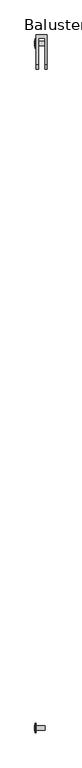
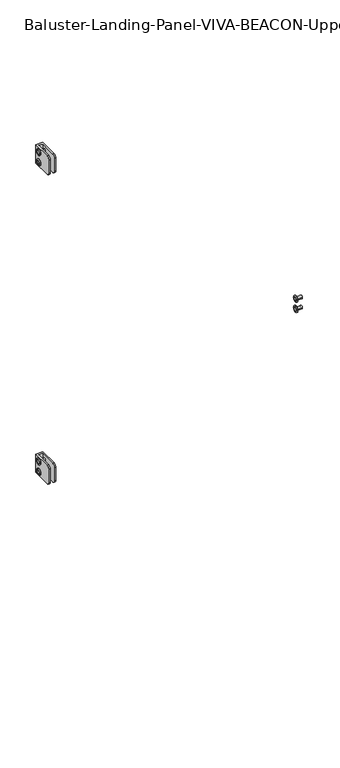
"""IFC4 building model written with IfcOpenShell, lengths in millimetres: railing geometry, Baluster-Landing-Panel-VIVA-BEACON-Upper : Standard_Glass."""

from ifc_helpers import new_model, si_unit, point, frame, origin, place, context, project, spatial, polyline, circle_curve, ellipse_curve, trimmed, outline, extrude, source, transform, mapped, element, save
from ifc_brep_helpers import plane_surface, cylinder_surface, revolved_surface, advanced_brep


def baluster_landing_panel_viva_beacon_upper_standard_glass_bbd0a9c9(model_context):
    return source(origin(), model_context, "Body", "SolidModel", [
        extrude(outline(polyline([(1009.1319632, 970.111725), (1007.084999, 966.5662791), (1002.9910707, 966.5662791), (1000.9441066, 970.111725), (1002.9910707, 973.6571709), (1007.084999, 973.6571709), (1009.1319632, 970.111725)])), frame((26.0686477, 0.0, 0.0), z_axis=(1.0, 0.0, 0.0), x_axis=(0.0, 1.0, 0.0)), (0.0, 0.0, 1.0), 1.4969696),
        advanced_brep(
        [(41.1327292, 1008.5834808, 970.111725), (41.1327292, 1001.492589, 970.111725), (28.4327292, 1001.492589, 970.111725), (28.4327292, 1008.5834808, 970.111725), (28.4327292, 997.6302458, 970.111725), (28.4327292, 1012.445824, 970.111725), (27.5656173, 1006.6941103, 970.111725), (27.5656173, 1003.3819595, 970.111725), (41.1327292, 1003.3819595, 970.111725), (41.1327292, 1006.6941103, 970.111725), (27.5978844, 1012.445824, 970.111725), (27.5978844, 997.6302458, 970.111725), (26.3166123, 998.9115178, 970.111725), (26.3166123, 1011.1645519, 970.111725), (26.3166123, 1000.7394393, 970.111725), (26.3166123, 1009.3366304, 970.111725), (27.5656173, 1000.7394393, 970.111725), (27.5656173, 1009.3366304, 970.111725)],
        [
            (0, 1, circle_curve(frame((41.1327292, 1005.0380349, 970.111725), z_axis=(-1.0, 0.0, 0.0), x_axis=(0.0, -1.0, 0.0)), 3.5454459)),
            (1, 2),
            (2, 3, circle_curve(frame((28.4327292, 1005.0380349, 970.111725), z_axis=(1.0, 0.0, 0.0), x_axis=(0.0, -1.0, 0.0)), 3.5454459)),
            (3, 0),
            (1, 0, circle_curve(frame((41.1327292, 1005.0380349, 970.111725), z_axis=(-1.0, 0.0, 0.0), x_axis=(0.0, -1.0, 0.0)), 3.5454459)),
            (3, 2, circle_curve(frame((28.4327292, 1005.0380349, 970.111725), z_axis=(1.0, 0.0, 0.0), x_axis=(0.0, -1.0, 0.0)), 3.5454459)),
            (2, 4),
            (4, 5, circle_curve(frame((28.4327292, 1005.0380349, 970.111725), z_axis=(1.0, 0.0, 0.0), x_axis=(0.0, -1.0, 0.0)), 7.4077891)),
            (5, 3),
            (5, 4, circle_curve(frame((28.4327292, 1005.0380349, 970.111725), z_axis=(1.0, 0.0, 0.0), x_axis=(0.0, -1.0, 0.0)), 7.4077891)),
            (6, 7, circle_curve(frame((27.5656173, 1005.0380349, 970.111725), z_axis=(-1.0, 0.0, 0.0), x_axis=(0.0, -1.0, 0.0)), 1.6560754)),
            (7, 8),
            (8, 9, circle_curve(frame((41.1327292, 1005.0380349, 970.111725), z_axis=(1.0, 0.0, 0.0), x_axis=(0.0, -1.0, 0.0)), 1.6560754)),
            (9, 6),
            (7, 6, circle_curve(frame((27.5656173, 1005.0380349, 970.111725), z_axis=(-1.0, 0.0, 0.0), x_axis=(0.0, -1.0, 0.0)), 1.6560754)),
            (9, 8, circle_curve(frame((41.1327292, 1005.0380349, 970.111725), z_axis=(1.0, 0.0, 0.0), x_axis=(0.0, -1.0, 0.0)), 1.6560754)),
            (10, 11, circle_curve(frame((27.5978844, 1005.0380349, 970.111725), z_axis=(-1.0, 0.0, 0.0), x_axis=(0.0, -1.0, 0.0)), 7.4077891)),
            (11, 12, circle_curve(frame((27.5978844, 998.9115178, 970.111725), z_axis=(0.0, 0.0, -1.0), x_axis=(0.0, -1.0, 0.0)), 1.281272)),
            (12, 13, circle_curve(frame((26.3166123, 1005.0380349, 970.111725), z_axis=(1.0, 0.0, 0.0), x_axis=(0.0, -1.0, 0.0)), 6.1265171)),
            (13, 10, circle_curve(frame((27.5978844, 1011.1645519, 970.111725), z_axis=(0.0, 0.0, -1.0), x_axis=(0.0, 1.0, 0.0)), 1.281272)),
            (11, 10, circle_curve(frame((27.5978844, 1005.0380349, 970.111725), z_axis=(-1.0, 0.0, 0.0), x_axis=(0.0, -1.0, 0.0)), 7.4077891)),
            (13, 12, circle_curve(frame((26.3166123, 1005.0380349, 970.111725), z_axis=(1.0, 0.0, 0.0), x_axis=(0.0, -1.0, 0.0)), 6.1265171)),
            (12, 14),
            (14, 15, circle_curve(frame((26.3166123, 1005.0380349, 970.111725), z_axis=(1.0, 0.0, 0.0), x_axis=(0.0, -1.0, 0.0)), 4.2985955)),
            (15, 13),
            (15, 14, circle_curve(frame((26.3166123, 1005.0380349, 970.111725), z_axis=(1.0, 0.0, 0.0), x_axis=(0.0, -1.0, 0.0)), 4.2985955)),
            (4, 11),
            (10, 5),
            (8, 1),
            (0, 9),
            (14, 16),
            (16, 17, circle_curve(frame((27.5656173, 1005.0380349, 970.111725), z_axis=(1.0, 0.0, 0.0), x_axis=(0.0, -1.0, 0.0)), 4.2985955)),
            (17, 15),
            (17, 16, circle_curve(frame((27.5656173, 1005.0380349, 970.111725), z_axis=(1.0, 0.0, 0.0), x_axis=(0.0, -1.0, 0.0)), 4.2985955)),
            (16, 7),
            (6, 17),
        ],
        [
            cylinder_surface(frame((31.9294623, 1005.0380349, 970.111725), z_axis=(1.0, 0.0, 0.0), x_axis=(0.0, -1.0, 0.0)), 3.5454459),
            plane_surface(frame((28.4327292, 1005.0380349, 970.111725), z_axis=(1.0, 0.0, 0.0), x_axis=(0.0, -1.0, 0.0))),
            revolved_surface(polyline([(41.1327292, 1003.3819595, 970.111725), (27.5656173, 1003.3819595, 970.111725)]), (31.9294623, 1005.0380349, 970.111725), (1.0, 0.0, 0.0)),
            revolved_surface(trimmed(ellipse_curve(frame((27.5978844, 998.9115178, 970.111725), z_axis=(0.0, 0.0, 1.0), x_axis=(0.0, -1.0, 0.0)), 1.281272, 1.281272), [point((26.3166123, 998.9115178, 970.111725))], [point((27.5978844, 997.6302458, 970.111725))], True, "CARTESIAN"), (31.9294623, 1005.0380349, 970.111725), (1.0, 0.0, 0.0)),
            plane_surface(frame((26.3166123, 1005.0380349, 970.111725), z_axis=(-1.0, 0.0, 0.0), x_axis=(0.0, -1.0, 0.0))),
            cylinder_surface(frame((31.9294623, 1005.0380349, 970.111725), z_axis=(1.0, 0.0, 0.0), x_axis=(0.0, -1.0, 0.0)), 7.4077891),
            plane_surface(frame((41.1327292, 1005.0380349, 970.111725), z_axis=(1.0, 0.0, 0.0), x_axis=(0.0, -1.0, 0.0))),
            revolved_surface(polyline([(27.5656173, 1000.7394393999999, 970.111725), (26.3166123, 1000.7394393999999, 970.111725)]), (31.9294623, 1005.0380349, 970.111725), (1.0, 0.0, 0.0)),
            plane_surface(frame((27.5656173, 1005.0380349, 970.111725), z_axis=(-1.0, 0.0, 0.0), x_axis=(0.0, -1.0, 0.0))),
        ],
        [
            (0, [[1, 2, 3, 4]]),
            (0, [[5, -4, 6, -2]]),
            (1, [[-3, 7, 8, 9]]),
            (1, [[-6, -9, 10, -7]]),
            (2, [[11, 12, 13, 14]]),
            (2, [[15, -14, 16, -12]]),
            (3, [[17, 18, 19, 20]]),
            (3, [[21, -20, 22, -18]]),
            (4, [[-19, 23, 24, 25]]),
            (4, [[-22, -25, 26, -23]]),
            (5, [[-8, 27, -17, 28]]),
            (5, [[-10, -28, -21, -27]]),
            (6, [[-13, 29, -1, 30]]),
            (6, [[-16, -30, -5, -29]]),
            (7, [[-24, 31, 32, 33]]),
            (7, [[-26, -33, 34, -31]]),
            (8, [[-32, 35, -11, 36]]),
            (8, [[-34, -36, -15, -35]]),
        ],
    ),
        advanced_brep(
        [(41.1327292, 1008.5834808, 945.505475), (41.1327292, 1001.492589, 945.505475), (28.4327292, 1001.492589, 945.505475), (28.4327292, 1008.5834808, 945.505475), (28.4327292, 997.6302458, 945.505475), (28.4327292, 1012.445824, 945.505475), (27.5656173, 1006.6941103, 945.505475), (27.5656173, 1003.3819595, 945.505475), (41.1327292, 1003.3819595, 945.505475), (41.1327292, 1006.6941103, 945.505475), (27.5978844, 1012.445824, 945.505475), (27.5978844, 997.6302458, 945.505475), (26.3166123, 998.9115178, 945.505475), (26.3166123, 1011.1645519, 945.505475), (26.3166123, 1000.7394393, 945.505475), (26.3166123, 1009.3366304, 945.505475), (27.5656173, 1000.7394393, 945.505475), (27.5656173, 1009.3366304, 945.505475)],
        [
            (0, 1, circle_curve(frame((41.1327292, 1005.0380349, 945.505475), z_axis=(-1.0, 0.0, 0.0), x_axis=(0.0, -1.0, 0.0)), 3.5454459)),
            (1, 2),
            (2, 3, circle_curve(frame((28.4327292, 1005.0380349, 945.505475), z_axis=(1.0, 0.0, 0.0), x_axis=(0.0, -1.0, 0.0)), 3.5454459)),
            (3, 0),
            (1, 0, circle_curve(frame((41.1327292, 1005.0380349, 945.505475), z_axis=(-1.0, 0.0, 0.0), x_axis=(0.0, -1.0, 0.0)), 3.5454459)),
            (3, 2, circle_curve(frame((28.4327292, 1005.0380349, 945.505475), z_axis=(1.0, 0.0, 0.0), x_axis=(0.0, -1.0, 0.0)), 3.5454459)),
            (2, 4),
            (4, 5, circle_curve(frame((28.4327292, 1005.0380349, 945.505475), z_axis=(1.0, 0.0, 0.0), x_axis=(0.0, -1.0, 0.0)), 7.4077891)),
            (5, 3),
            (5, 4, circle_curve(frame((28.4327292, 1005.0380349, 945.505475), z_axis=(1.0, 0.0, 0.0), x_axis=(0.0, -1.0, 0.0)), 7.4077891)),
            (6, 7, circle_curve(frame((27.5656173, 1005.0380349, 945.505475), z_axis=(-1.0, 0.0, 0.0), x_axis=(0.0, -1.0, 0.0)), 1.6560754)),
            (7, 8),
            (8, 9, circle_curve(frame((41.1327292, 1005.0380349, 945.505475), z_axis=(1.0, 0.0, 0.0), x_axis=(0.0, -1.0, 0.0)), 1.6560754)),
            (9, 6),
            (7, 6, circle_curve(frame((27.5656173, 1005.0380349, 945.505475), z_axis=(-1.0, 0.0, 0.0), x_axis=(0.0, -1.0, 0.0)), 1.6560754)),
            (9, 8, circle_curve(frame((41.1327292, 1005.0380349, 945.505475), z_axis=(1.0, 0.0, 0.0), x_axis=(0.0, -1.0, 0.0)), 1.6560754)),
            (10, 11, circle_curve(frame((27.5978844, 1005.0380349, 945.505475), z_axis=(-1.0, 0.0, 0.0), x_axis=(0.0, -1.0, 0.0)), 7.4077891)),
            (11, 12, circle_curve(frame((27.5978844, 998.9115178, 945.505475), z_axis=(0.0, 0.0, -1.0), x_axis=(0.0, -1.0, 0.0)), 1.281272)),
            (12, 13, circle_curve(frame((26.3166123, 1005.0380349, 945.505475), z_axis=(1.0, 0.0, 0.0), x_axis=(0.0, -1.0, 0.0)), 6.1265171)),
            (13, 10, circle_curve(frame((27.5978844, 1011.1645519, 945.505475), z_axis=(0.0, 0.0, -1.0), x_axis=(0.0, 1.0, 0.0)), 1.281272)),
            (11, 10, circle_curve(frame((27.5978844, 1005.0380349, 945.505475), z_axis=(-1.0, 0.0, 0.0), x_axis=(0.0, -1.0, 0.0)), 7.4077891)),
            (13, 12, circle_curve(frame((26.3166123, 1005.0380349, 945.505475), z_axis=(1.0, 0.0, 0.0), x_axis=(0.0, -1.0, 0.0)), 6.1265171)),
            (12, 14),
            (14, 15, circle_curve(frame((26.3166123, 1005.0380349, 945.505475), z_axis=(1.0, 0.0, 0.0), x_axis=(0.0, -1.0, 0.0)), 4.2985955)),
            (15, 13),
            (15, 14, circle_curve(frame((26.3166123, 1005.0380349, 945.505475), z_axis=(1.0, 0.0, 0.0), x_axis=(0.0, -1.0, 0.0)), 4.2985955)),
            (8, 1),
            (0, 9),
            (4, 11),
            (10, 5),
            (14, 16),
            (16, 17, circle_curve(frame((27.5656173, 1005.0380349, 945.505475), z_axis=(1.0, 0.0, 0.0), x_axis=(0.0, -1.0, 0.0)), 4.2985955)),
            (17, 15),
            (17, 16, circle_curve(frame((27.5656173, 1005.0380349, 945.505475), z_axis=(1.0, 0.0, 0.0), x_axis=(0.0, -1.0, 0.0)), 4.2985955)),
            (16, 7),
            (6, 17),
        ],
        [
            cylinder_surface(frame((31.9294623, 1005.0380349, 945.505475), z_axis=(1.0, 0.0, 0.0), x_axis=(0.0, -1.0, 0.0)), 3.5454459),
            plane_surface(frame((28.4327292, 1005.0380349, 945.505475), z_axis=(1.0, 0.0, 0.0), x_axis=(0.0, -1.0, 0.0))),
            revolved_surface(polyline([(41.1327292, 1003.3819595, 945.505475), (27.5656173, 1003.3819595, 945.505475)]), (31.9294623, 1005.0380349, 945.505475), (1.0, 0.0, 0.0)),
            revolved_surface(trimmed(ellipse_curve(frame((27.5978844, 998.9115178, 945.505475), z_axis=(0.0, 0.0, 1.0), x_axis=(0.0, -1.0, 0.0)), 1.281272, 1.281272), [point((26.3166123, 998.9115178, 945.505475))], [point((27.5978844, 997.6302458, 945.505475))], True, "CARTESIAN"), (31.9294623, 1005.0380349, 945.505475), (1.0, 0.0, 0.0)),
            plane_surface(frame((26.3166123, 1005.0380349, 945.505475), z_axis=(-1.0, 0.0, 0.0), x_axis=(0.0, -1.0, 0.0))),
            plane_surface(frame((41.1327292, 1005.0380349, 945.505475), z_axis=(1.0, 0.0, 0.0), x_axis=(0.0, -1.0, 0.0))),
            cylinder_surface(frame((31.9294623, 1005.0380349, 945.505475), z_axis=(1.0, 0.0, 0.0), x_axis=(0.0, -1.0, 0.0)), 7.4077891),
            revolved_surface(polyline([(27.5656173, 1000.7394393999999, 945.505475), (26.3166123, 1000.7394393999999, 945.505475)]), (31.9294623, 1005.0380349, 945.505475), (1.0, 0.0, 0.0)),
            plane_surface(frame((27.5656173, 1005.0380349, 945.505475), z_axis=(-1.0, 0.0, 0.0), x_axis=(0.0, -1.0, 0.0))),
        ],
        [
            (0, [[1, 2, 3, 4]]),
            (0, [[5, -4, 6, -2]]),
            (1, [[-3, 7, 8, 9]]),
            (1, [[-6, -9, 10, -7]]),
            (2, [[11, 12, 13, 14]]),
            (2, [[15, -14, 16, -12]]),
            (3, [[17, 18, 19, 20]]),
            (3, [[21, -20, 22, -18]]),
            (4, [[-19, 23, 24, 25]]),
            (4, [[-22, -25, 26, -23]]),
            (5, [[-13, 27, -1, 28]]),
            (5, [[-16, -28, -5, -27]]),
            (6, [[-8, 29, -17, 30]]),
            (6, [[-10, -30, -21, -29]]),
            (7, [[-24, 31, 32, 33]]),
            (7, [[-26, -33, 34, -31]]),
            (8, [[-32, 35, -11, 36]]),
            (8, [[-34, -36, -15, -35]]),
        ],
    ),
        extrude(outline(polyline([(1009.1319632, 945.505475), (1007.084999, 941.9600291), (1002.9910707, 941.9600291), (1000.9441066, 945.505475), (1002.9910707, 949.0509209), (1007.084999, 949.0509209), (1009.1319632, 945.505475)])), frame((26.0686477, 0.0, 0.0), z_axis=(1.0, 0.0, 0.0), x_axis=(0.0, 1.0, 0.0)), (0.0, 0.0, 1.0), 1.4969696),
        advanced_brep(
        [(28.4327292, 1017.6713797, 980.0336), (28.4327292, 1017.6713797, 935.5836), (28.4327292, 973.2213797, 935.5836), (28.4327292, 966.8713797, 941.9336), (28.4327292, 966.8713797, 973.6836), (28.4327292, 973.2213797, 980.0336), (44.3077292, 1017.6713797, 980.0336), (44.3077292, 973.2213797, 980.0336), (44.3077292, 966.8713797, 973.6836), (44.3077292, 966.8713797, 941.9336), (44.3077292, 973.2213797, 935.5836), (44.3077292, 1017.6713797, 935.5836), (41.1327292, 973.2213797, 935.5836), (41.1327292, 1012.9532993, 935.5836), (31.6077292, 1012.9532993, 935.5836), (31.6077292, 973.2213797, 935.5836), (41.1327292, 1012.9532993, 980.0336), (31.6077292, 1012.9532993, 980.0336), (31.6077292, 973.2213797, 980.0336), (31.6077292, 966.8713797, 973.6836), (31.6077292, 966.8713797, 941.9336), (41.1327292, 966.8713797, 941.9336), (41.1327292, 966.8713797, 973.6836), (41.1327292, 973.2213797, 980.0336)],
        [
            (0, 1),
            (1, 2),
            (2, 3, circle_curve(frame((28.4327292, 973.2213797, 941.9336), z_axis=(-1.0, 0.0, 0.0), x_axis=(0.0, -1.0, 0.0)), 6.35)),
            (3, 4),
            (4, 5, circle_curve(frame((28.4327292, 973.2213797, 973.6836), z_axis=(-1.0, 0.0, 0.0), x_axis=(0.0, -1.0, 0.0)), 6.35)),
            (5, 0),
            (6, 7),
            (7, 8, circle_curve(frame((44.3077292, 973.2213797, 973.6836), z_axis=(1.0, 0.0, 0.0), x_axis=(0.0, -1.0, 0.0)), 6.35)),
            (8, 9),
            (9, 10, circle_curve(frame((44.3077292, 973.2213797, 941.9336), z_axis=(1.0, 0.0, 0.0), x_axis=(0.0, -1.0, 0.0)), 6.35)),
            (10, 11),
            (11, 6),
            (0, 6),
            (11, 1),
            (10, 12),
            (12, 13),
            (13, 14),
            (14, 15),
            (15, 2),
            (13, 16),
            (16, 17),
            (17, 14),
            (17, 18),
            (18, 19, circle_curve(frame((31.6077292, 973.2213797, 973.6836), z_axis=(1.0, 0.0, 0.0), x_axis=(0.0, -1.0, 0.0)), 6.35)),
            (19, 20),
            (20, 15, circle_curve(frame((31.6077292, 973.2213797, 941.9336), z_axis=(1.0, 0.0, 0.0), x_axis=(0.0, -1.0, 0.0)), 6.35)),
            (12, 21, circle_curve(frame((41.1327292, 973.2213797, 941.9336), z_axis=(-1.0, 0.0, 0.0), x_axis=(0.0, -1.0, 0.0)), 6.35)),
            (21, 22),
            (22, 23, circle_curve(frame((41.1327292, 973.2213797, 973.6836), z_axis=(-1.0, 0.0, 0.0), x_axis=(0.0, -1.0, 0.0)), 6.35)),
            (23, 16),
            (20, 3),
            (9, 21),
            (19, 4),
            (8, 22),
            (18, 5),
            (7, 23),
        ],
        [
            plane_surface(frame((28.4327292, 1017.6713797, 935.5836), z_axis=(-1.0, 0.0, 0.0), x_axis=(0.0, 0.0, -1.0))),
            plane_surface(frame((44.3077292, 1017.6713797, 935.5836), z_axis=(1.0, 0.0, 0.0), x_axis=(0.0, 0.0, 1.0))),
            plane_surface(frame((28.4327292, 1017.6713797, 980.0336), z_axis=(0.0, 1.0, 0.0), x_axis=(1.0, 0.0, 0.0))),
            plane_surface(frame((28.4327292, 1017.6713797, 935.5836), z_axis=(0.0, 0.0, -1.0), x_axis=(1.0, 0.0, 0.0))),
            plane_surface(frame((41.1327292, 1012.9532993, 992.7336), z_axis=(0.0, -1.0, 0.0), x_axis=(0.0, 0.0, -1.0))),
            plane_surface(frame((31.6077292, 1012.9532993, 992.7336), z_axis=(1.0, 0.0, 0.0), x_axis=(0.0, 0.0, -1.0))),
            plane_surface(frame((41.1327292, 954.1713797, 992.7336), z_axis=(-1.0, 0.0, 0.0), x_axis=(0.0, 0.0, -1.0))),
            cylinder_surface(frame((44.3077292, 973.2213797, 941.9336), z_axis=(-1.0, 0.0, 0.0), x_axis=(0.0, -1.0, 0.0)), 6.35),
            plane_surface(frame((28.4327292, 966.8713797, 941.9336), z_axis=(0.0, -1.0, 0.0), x_axis=(1.0, 0.0, 0.0))),
            cylinder_surface(frame((44.3077292, 973.2213797, 973.6836), z_axis=(-1.0, 0.0, 0.0), x_axis=(0.0, -1.0, 0.0)), 6.35),
            plane_surface(frame((28.4327292, 973.2213797, 980.0336), z_axis=(0.0, 0.0, 1.0), x_axis=(1.0, 0.0, 0.0))),
        ],
        [
            (0, [[1, 2, 3, 4, 5, 6]]),
            (1, [[7, 8, 9, 10, 11, 12]]),
            (2, [[-1, 13, -12, 14]]),
            (3, [[-2, -14, -11, 15, 16, 17, 18, 19]]),
            (4, [[20, 21, 22, -17]]),
            (5, [[-22, 23, 24, 25, 26, -18]]),
            (6, [[-20, -16, 27, 28, 29, 30]]),
            (7, [[-3, -19, -26, 31]]),
            (7, [[-10, 32, -27, -15]]),
            (8, [[-4, -31, -25, 33]]),
            (8, [[-9, 34, -28, -32]]),
            (9, [[-5, -33, -24, 35]]),
            (9, [[-8, 36, -29, -34]]),
            (10, [[-6, -35, -23, -21, -30, -36, -7, -13]]),
        ],
    ),
        extrude(outline(polyline([(1009.1319632, 220.73255), (1007.084999, 217.1871041), (1002.9910707, 217.1871041), (1000.9441066, 220.73255), (1002.9910707, 224.2779959), (1007.084999, 224.2779959), (1009.1319632, 220.73255)])), frame((26.0686477, 0.0, 0.0), z_axis=(1.0, 0.0, 0.0), x_axis=(0.0, 1.0, 0.0)), (0.0, 0.0, 1.0), 1.4969696),
        advanced_brep(
        [(41.1327292, 1008.5834808, 220.73255), (41.1327292, 1001.492589, 220.73255), (28.4327292, 1001.492589, 220.73255), (28.4327292, 1008.5834808, 220.73255), (28.4327292, 997.6302458, 220.73255), (28.4327292, 1012.445824, 220.73255), (27.5656173, 1006.6941103, 220.73255), (27.5656173, 1003.3819595, 220.73255), (41.1327292, 1003.3819595, 220.73255), (41.1327292, 1006.6941103, 220.73255), (27.5978844, 1012.445824, 220.73255), (27.5978844, 997.6302458, 220.73255), (26.3166123, 998.9115178, 220.73255), (26.3166123, 1011.1645519, 220.73255), (26.3166123, 1000.7394393, 220.73255), (26.3166123, 1009.3366304, 220.73255), (27.5656173, 1000.7394393, 220.73255), (27.5656173, 1009.3366304, 220.73255)],
        [
            (0, 1, circle_curve(frame((41.1327292, 1005.0380349, 220.73255), z_axis=(-1.0, 0.0, 0.0), x_axis=(0.0, -1.0, 0.0)), 3.5454459)),
            (1, 2),
            (2, 3, circle_curve(frame((28.4327292, 1005.0380349, 220.73255), z_axis=(1.0, 0.0, 0.0), x_axis=(0.0, -1.0, 0.0)), 3.5454459)),
            (3, 0),
            (1, 0, circle_curve(frame((41.1327292, 1005.0380349, 220.73255), z_axis=(-1.0, 0.0, 0.0), x_axis=(0.0, -1.0, 0.0)), 3.5454459)),
            (3, 2, circle_curve(frame((28.4327292, 1005.0380349, 220.73255), z_axis=(1.0, 0.0, 0.0), x_axis=(0.0, -1.0, 0.0)), 3.5454459)),
            (2, 4),
            (4, 5, circle_curve(frame((28.4327292, 1005.0380349, 220.73255), z_axis=(1.0, 0.0, 0.0), x_axis=(0.0, -1.0, 0.0)), 7.4077891)),
            (5, 3),
            (5, 4, circle_curve(frame((28.4327292, 1005.0380349, 220.73255), z_axis=(1.0, 0.0, 0.0), x_axis=(0.0, -1.0, 0.0)), 7.4077891)),
            (6, 7, circle_curve(frame((27.5656173, 1005.0380349, 220.73255), z_axis=(-1.0, 0.0, 0.0), x_axis=(0.0, -1.0, 0.0)), 1.6560754)),
            (7, 8),
            (8, 9, circle_curve(frame((41.1327292, 1005.0380349, 220.73255), z_axis=(1.0, 0.0, 0.0), x_axis=(0.0, -1.0, 0.0)), 1.6560754)),
            (9, 6),
            (7, 6, circle_curve(frame((27.5656173, 1005.0380349, 220.73255), z_axis=(-1.0, 0.0, 0.0), x_axis=(0.0, -1.0, 0.0)), 1.6560754)),
            (9, 8, circle_curve(frame((41.1327292, 1005.0380349, 220.73255), z_axis=(1.0, 0.0, 0.0), x_axis=(0.0, -1.0, 0.0)), 1.6560754)),
            (10, 11, circle_curve(frame((27.5978844, 1005.0380349, 220.73255), z_axis=(-1.0, 0.0, 0.0), x_axis=(0.0, -1.0, 0.0)), 7.4077891)),
            (11, 12, circle_curve(frame((27.5978844, 998.9115178, 220.73255), z_axis=(0.0, 0.0, -1.0), x_axis=(0.0, -1.0, 0.0)), 1.281272)),
            (12, 13, circle_curve(frame((26.3166123, 1005.0380349, 220.73255), z_axis=(1.0, 0.0, 0.0), x_axis=(0.0, -1.0, 0.0)), 6.1265171)),
            (13, 10, circle_curve(frame((27.5978844, 1011.1645519, 220.73255), z_axis=(0.0, 0.0, -1.0), x_axis=(0.0, 1.0, 0.0)), 1.281272)),
            (11, 10, circle_curve(frame((27.5978844, 1005.0380349, 220.73255), z_axis=(-1.0, 0.0, 0.0), x_axis=(0.0, -1.0, 0.0)), 7.4077891)),
            (13, 12, circle_curve(frame((26.3166123, 1005.0380349, 220.73255), z_axis=(1.0, 0.0, 0.0), x_axis=(0.0, -1.0, 0.0)), 6.1265171)),
            (12, 14),
            (14, 15, circle_curve(frame((26.3166123, 1005.0380349, 220.73255), z_axis=(1.0, 0.0, 0.0), x_axis=(0.0, -1.0, 0.0)), 4.2985955)),
            (15, 13),
            (15, 14, circle_curve(frame((26.3166123, 1005.0380349, 220.73255), z_axis=(1.0, 0.0, 0.0), x_axis=(0.0, -1.0, 0.0)), 4.2985955)),
            (4, 11),
            (10, 5),
            (8, 1),
            (0, 9),
            (14, 16),
            (16, 17, circle_curve(frame((27.5656173, 1005.0380349, 220.73255), z_axis=(1.0, 0.0, 0.0), x_axis=(0.0, -1.0, 0.0)), 4.2985955)),
            (17, 15),
            (17, 16, circle_curve(frame((27.5656173, 1005.0380349, 220.73255), z_axis=(1.0, 0.0, 0.0), x_axis=(0.0, -1.0, 0.0)), 4.2985955)),
            (16, 7),
            (6, 17),
        ],
        [
            cylinder_surface(frame((31.9294623, 1005.0380349, 220.73255), z_axis=(1.0, 0.0, 0.0), x_axis=(0.0, -1.0, 0.0)), 3.5454459),
            plane_surface(frame((28.4327292, 1005.0380349, 220.73255), z_axis=(1.0, 0.0, 0.0), x_axis=(0.0, -1.0, 0.0))),
            revolved_surface(polyline([(41.1327292, 1003.3819595, 220.73255), (27.5656173, 1003.3819595, 220.73255)]), (31.9294623, 1005.0380349, 220.73255), (1.0, 0.0, 0.0)),
            revolved_surface(trimmed(ellipse_curve(frame((27.5978844, 998.9115178, 220.73255), z_axis=(0.0, 0.0, 1.0), x_axis=(0.0, -1.0, 0.0)), 1.281272, 1.281272), [point((26.3166123, 998.9115178, 220.73255))], [point((27.5978844, 997.6302458, 220.73255))], True, "CARTESIAN"), (31.9294623, 1005.0380349, 220.73255), (1.0, 0.0, 0.0)),
            plane_surface(frame((26.3166123, 1005.0380349, 220.73255), z_axis=(-1.0, 0.0, 0.0), x_axis=(0.0, -1.0, 0.0))),
            cylinder_surface(frame((31.9294623, 1005.0380349, 220.73255), z_axis=(1.0, 0.0, 0.0), x_axis=(0.0, -1.0, 0.0)), 7.4077891),
            plane_surface(frame((41.1327292, 1005.0380349, 220.73255), z_axis=(1.0, 0.0, 0.0), x_axis=(0.0, -1.0, 0.0))),
            revolved_surface(polyline([(27.5656173, 1000.7394393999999, 220.73255), (26.3166123, 1000.7394393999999, 220.73255)]), (31.9294623, 1005.0380349, 220.73255), (1.0, 0.0, 0.0)),
            plane_surface(frame((27.5656173, 1005.0380349, 220.73255), z_axis=(-1.0, 0.0, 0.0), x_axis=(0.0, -1.0, 0.0))),
        ],
        [
            (0, [[1, 2, 3, 4]]),
            (0, [[5, -4, 6, -2]]),
            (1, [[-3, 7, 8, 9]]),
            (1, [[-6, -9, 10, -7]]),
            (2, [[11, 12, 13, 14]]),
            (2, [[15, -14, 16, -12]]),
            (3, [[17, 18, 19, 20]]),
            (3, [[21, -20, 22, -18]]),
            (4, [[-19, 23, 24, 25]]),
            (4, [[-22, -25, 26, -23]]),
            (5, [[-8, 27, -17, 28]]),
            (5, [[-10, -28, -21, -27]]),
            (6, [[-13, 29, -1, 30]]),
            (6, [[-16, -30, -5, -29]]),
            (7, [[-24, 31, 32, 33]]),
            (7, [[-26, -33, 34, -31]]),
            (8, [[-32, 35, -11, 36]]),
            (8, [[-34, -36, -15, -35]]),
        ],
    ),
        advanced_brep(
        [(41.1327292, 1008.5834808, 196.1263), (41.1327292, 1001.492589, 196.1263), (28.4327292, 1001.492589, 196.1263), (28.4327292, 1008.5834808, 196.1263), (28.4327292, 997.6302458, 196.1263), (28.4327292, 1012.445824, 196.1263), (27.5656173, 1006.6941103, 196.1263), (27.5656173, 1003.3819595, 196.1263), (41.1327292, 1003.3819595, 196.1263), (41.1327292, 1006.6941103, 196.1263), (27.5978844, 1012.445824, 196.1263), (27.5978844, 997.6302458, 196.1263), (26.3166123, 998.9115178, 196.1263), (26.3166123, 1011.1645519, 196.1263), (26.3166123, 1000.7394393, 196.1263), (26.3166123, 1009.3366304, 196.1263), (27.5656173, 1000.7394393, 196.1263), (27.5656173, 1009.3366304, 196.1263)],
        [
            (0, 1, circle_curve(frame((41.1327292, 1005.0380349, 196.1263), z_axis=(-1.0, 0.0, 0.0), x_axis=(0.0, -1.0, 0.0)), 3.5454459)),
            (1, 2),
            (2, 3, circle_curve(frame((28.4327292, 1005.0380349, 196.1263), z_axis=(1.0, 0.0, 0.0), x_axis=(0.0, -1.0, 0.0)), 3.5454459)),
            (3, 0),
            (1, 0, circle_curve(frame((41.1327292, 1005.0380349, 196.1263), z_axis=(-1.0, 0.0, 0.0), x_axis=(0.0, -1.0, 0.0)), 3.5454459)),
            (3, 2, circle_curve(frame((28.4327292, 1005.0380349, 196.1263), z_axis=(1.0, 0.0, 0.0), x_axis=(0.0, -1.0, 0.0)), 3.5454459)),
            (2, 4),
            (4, 5, circle_curve(frame((28.4327292, 1005.0380349, 196.1263), z_axis=(1.0, 0.0, 0.0), x_axis=(0.0, -1.0, 0.0)), 7.4077891)),
            (5, 3),
            (5, 4, circle_curve(frame((28.4327292, 1005.0380349, 196.1263), z_axis=(1.0, 0.0, 0.0), x_axis=(0.0, -1.0, 0.0)), 7.4077891)),
            (6, 7, circle_curve(frame((27.5656173, 1005.0380349, 196.1263), z_axis=(-1.0, 0.0, 0.0), x_axis=(0.0, -1.0, 0.0)), 1.6560754)),
            (7, 8),
            (8, 9, circle_curve(frame((41.1327292, 1005.0380349, 196.1263), z_axis=(1.0, 0.0, 0.0), x_axis=(0.0, -1.0, 0.0)), 1.6560754)),
            (9, 6),
            (7, 6, circle_curve(frame((27.5656173, 1005.0380349, 196.1263), z_axis=(-1.0, 0.0, 0.0), x_axis=(0.0, -1.0, 0.0)), 1.6560754)),
            (9, 8, circle_curve(frame((41.1327292, 1005.0380349, 196.1263), z_axis=(1.0, 0.0, 0.0), x_axis=(0.0, -1.0, 0.0)), 1.6560754)),
            (10, 11, circle_curve(frame((27.5978844, 1005.0380349, 196.1263), z_axis=(-1.0, 0.0, 0.0), x_axis=(0.0, -1.0, 0.0)), 7.4077891)),
            (11, 12, circle_curve(frame((27.5978844, 998.9115178, 196.1263), z_axis=(0.0, 0.0, -1.0), x_axis=(0.0, -1.0, 0.0)), 1.281272)),
            (12, 13, circle_curve(frame((26.3166123, 1005.0380349, 196.1263), z_axis=(1.0, 0.0, 0.0), x_axis=(0.0, -1.0, 0.0)), 6.1265171)),
            (13, 10, circle_curve(frame((27.5978844, 1011.1645519, 196.1263), z_axis=(0.0, 0.0, -1.0), x_axis=(0.0, 1.0, 0.0)), 1.281272)),
            (11, 10, circle_curve(frame((27.5978844, 1005.0380349, 196.1263), z_axis=(-1.0, 0.0, 0.0), x_axis=(0.0, -1.0, 0.0)), 7.4077891)),
            (13, 12, circle_curve(frame((26.3166123, 1005.0380349, 196.1263), z_axis=(1.0, 0.0, 0.0), x_axis=(0.0, -1.0, 0.0)), 6.1265171)),
            (12, 14),
            (14, 15, circle_curve(frame((26.3166123, 1005.0380349, 196.1263), z_axis=(1.0, 0.0, 0.0), x_axis=(0.0, -1.0, 0.0)), 4.2985955)),
            (15, 13),
            (15, 14, circle_curve(frame((26.3166123, 1005.0380349, 196.1263), z_axis=(1.0, 0.0, 0.0), x_axis=(0.0, -1.0, 0.0)), 4.2985955)),
            (8, 1),
            (0, 9),
            (4, 11),
            (10, 5),
            (14, 16),
            (16, 17, circle_curve(frame((27.5656173, 1005.0380349, 196.1263), z_axis=(1.0, 0.0, 0.0), x_axis=(0.0, -1.0, 0.0)), 4.2985955)),
            (17, 15),
            (17, 16, circle_curve(frame((27.5656173, 1005.0380349, 196.1263), z_axis=(1.0, 0.0, 0.0), x_axis=(0.0, -1.0, 0.0)), 4.2985955)),
            (16, 7),
            (6, 17),
        ],
        [
            cylinder_surface(frame((31.9294623, 1005.0380349, 196.1263), z_axis=(1.0, 0.0, 0.0), x_axis=(0.0, -1.0, 0.0)), 3.5454459),
            plane_surface(frame((28.4327292, 1005.0380349, 196.1263), z_axis=(1.0, 0.0, 0.0), x_axis=(0.0, -1.0, 0.0))),
            revolved_surface(polyline([(41.1327292, 1003.3819595, 196.1263), (27.5656173, 1003.3819595, 196.1263)]), (31.9294623, 1005.0380349, 196.1263), (1.0, 0.0, 0.0)),
            revolved_surface(trimmed(ellipse_curve(frame((27.5978844, 998.9115178, 196.1263), z_axis=(0.0, 0.0, 1.0), x_axis=(0.0, -1.0, 0.0)), 1.281272, 1.281272), [point((26.3166123, 998.9115178, 196.1263))], [point((27.5978844, 997.6302458, 196.1263))], True, "CARTESIAN"), (31.9294623, 1005.0380349, 196.1263), (1.0, 0.0, 0.0)),
            plane_surface(frame((26.3166123, 1005.0380349, 196.1263), z_axis=(-1.0, 0.0, 0.0), x_axis=(0.0, -1.0, 0.0))),
            plane_surface(frame((41.1327292, 1005.0380349, 196.1263), z_axis=(1.0, 0.0, 0.0), x_axis=(0.0, -1.0, 0.0))),
            cylinder_surface(frame((31.9294623, 1005.0380349, 196.1263), z_axis=(1.0, 0.0, 0.0), x_axis=(0.0, -1.0, 0.0)), 7.4077891),
            revolved_surface(polyline([(27.5656173, 1000.7394393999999, 196.1263), (26.3166123, 1000.7394393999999, 196.1263)]), (31.9294623, 1005.0380349, 196.1263), (1.0, 0.0, 0.0)),
            plane_surface(frame((27.5656173, 1005.0380349, 196.1263), z_axis=(-1.0, 0.0, 0.0), x_axis=(0.0, -1.0, 0.0))),
        ],
        [
            (0, [[1, 2, 3, 4]]),
            (0, [[5, -4, 6, -2]]),
            (1, [[-3, 7, 8, 9]]),
            (1, [[-6, -9, 10, -7]]),
            (2, [[11, 12, 13, 14]]),
            (2, [[15, -14, 16, -12]]),
            (3, [[17, 18, 19, 20]]),
            (3, [[21, -20, 22, -18]]),
            (4, [[-19, 23, 24, 25]]),
            (4, [[-22, -25, 26, -23]]),
            (5, [[-13, 27, -1, 28]]),
            (5, [[-16, -28, -5, -27]]),
            (6, [[-8, 29, -17, 30]]),
            (6, [[-10, -30, -21, -29]]),
            (7, [[-24, 31, 32, 33]]),
            (7, [[-26, -33, 34, -31]]),
            (8, [[-32, 35, -11, 36]]),
            (8, [[-34, -36, -15, -35]]),
        ],
    ),
        extrude(outline(polyline([(1009.1319632, 196.1263), (1007.084999, 192.5808541), (1002.9910707, 192.5808541), (1000.9441066, 196.1263), (1002.9910707, 199.6717459), (1007.084999, 199.6717459), (1009.1319632, 196.1263)])), frame((26.0686477, 0.0, 0.0), z_axis=(1.0, 0.0, 0.0), x_axis=(0.0, 1.0, 0.0)), (0.0, 0.0, 1.0), 1.4969696),
        advanced_brep(
        [(28.4327292, 1017.6713797, 230.654425), (28.4327292, 1017.6713797, 186.204425), (28.4327292, 973.2213797, 186.204425), (28.4327292, 966.8713797, 192.554425), (28.4327292, 966.8713797, 224.304425), (28.4327292, 973.2213797, 230.654425), (44.3077292, 1017.6713797, 230.654425), (44.3077292, 973.2213797, 230.654425), (44.3077292, 966.8713797, 224.304425), (44.3077292, 966.8713797, 192.554425), (44.3077292, 973.2213797, 186.204425), (44.3077292, 1017.6713797, 186.204425), (41.1327292, 973.2213797, 186.204425), (41.1327292, 1012.9532993, 186.204425), (31.6077292, 1012.9532993, 186.204425), (31.6077292, 973.2213797, 186.204425), (41.1327292, 1012.9532993, 230.654425), (31.6077292, 1012.9532993, 230.654425), (31.6077292, 973.2213797, 230.654425), (31.6077292, 966.8713797, 224.304425), (31.6077292, 966.8713797, 192.554425), (41.1327292, 966.8713797, 192.554425), (41.1327292, 966.8713797, 224.304425), (41.1327292, 973.2213797, 230.654425)],
        [
            (0, 1),
            (1, 2),
            (2, 3, circle_curve(frame((28.4327292, 973.2213797, 192.554425), z_axis=(-1.0, 0.0, 0.0), x_axis=(0.0, -1.0, 0.0)), 6.35)),
            (3, 4),
            (4, 5, circle_curve(frame((28.4327292, 973.2213797, 224.304425), z_axis=(-1.0, 0.0, 0.0), x_axis=(0.0, -1.0, 0.0)), 6.35)),
            (5, 0),
            (6, 7),
            (7, 8, circle_curve(frame((44.3077292, 973.2213797, 224.304425), z_axis=(1.0, 0.0, 0.0), x_axis=(0.0, -1.0, 0.0)), 6.35)),
            (8, 9),
            (9, 10, circle_curve(frame((44.3077292, 973.2213797, 192.554425), z_axis=(1.0, 0.0, 0.0), x_axis=(0.0, -1.0, 0.0)), 6.35)),
            (10, 11),
            (11, 6),
            (0, 6),
            (11, 1),
            (10, 12),
            (12, 13),
            (13, 14),
            (14, 15),
            (15, 2),
            (13, 16),
            (16, 17),
            (17, 14),
            (17, 18),
            (18, 19, circle_curve(frame((31.6077292, 973.2213797, 224.304425), z_axis=(1.0, 0.0, 0.0), x_axis=(0.0, -1.0, 0.0)), 6.35)),
            (19, 20),
            (20, 15, circle_curve(frame((31.6077292, 973.2213797, 192.554425), z_axis=(1.0, 0.0, 0.0), x_axis=(0.0, -1.0, 0.0)), 6.35)),
            (12, 21, circle_curve(frame((41.1327292, 973.2213797, 192.554425), z_axis=(-1.0, 0.0, 0.0), x_axis=(0.0, -1.0, 0.0)), 6.35)),
            (21, 22),
            (22, 23, circle_curve(frame((41.1327292, 973.2213797, 224.304425), z_axis=(-1.0, 0.0, 0.0), x_axis=(0.0, -1.0, 0.0)), 6.35)),
            (23, 16),
            (20, 3),
            (9, 21),
            (19, 4),
            (8, 22),
            (18, 5),
            (7, 23),
        ],
        [
            plane_surface(frame((28.4327292, 1017.6713797, 186.204425), z_axis=(-1.0, 0.0, 0.0), x_axis=(0.0, 0.0, -1.0))),
            plane_surface(frame((44.3077292, 1017.6713797, 186.204425), z_axis=(1.0, 0.0, 0.0), x_axis=(0.0, 0.0, 1.0))),
            plane_surface(frame((28.4327292, 1017.6713797, 230.654425), z_axis=(0.0, 1.0, 0.0), x_axis=(1.0, 0.0, 0.0))),
            plane_surface(frame((28.4327292, 1017.6713797, 186.204425), z_axis=(0.0, 0.0, -1.0), x_axis=(1.0, 0.0, 0.0))),
            plane_surface(frame((41.1327292, 1012.9532993, 243.354425), z_axis=(0.0, -1.0, 0.0), x_axis=(0.0, 0.0, -1.0))),
            plane_surface(frame((31.6077292, 1012.9532993, 243.354425), z_axis=(1.0, 0.0, 0.0), x_axis=(0.0, 0.0, -1.0))),
            plane_surface(frame((41.1327292, 954.1713797, 243.354425), z_axis=(-1.0, 0.0, 0.0), x_axis=(0.0, 0.0, -1.0))),
            cylinder_surface(frame((44.3077292, 973.2213797, 192.554425), z_axis=(-1.0, 0.0, 0.0), x_axis=(0.0, -1.0, 0.0)), 6.35),
            plane_surface(frame((28.4327292, 966.8713797, 192.554425), z_axis=(0.0, -1.0, 0.0), x_axis=(1.0, 0.0, 0.0))),
            cylinder_surface(frame((44.3077292, 973.2213797, 224.304425), z_axis=(-1.0, 0.0, 0.0), x_axis=(0.0, -1.0, 0.0)), 6.35),
            plane_surface(frame((28.4327292, 973.2213797, 230.654425), z_axis=(0.0, 0.0, 1.0), x_axis=(1.0, 0.0, 0.0))),
        ],
        [
            (0, [[1, 2, 3, 4, 5, 6]]),
            (1, [[7, 8, 9, 10, 11, 12]]),
            (2, [[-1, 13, -12, 14]]),
            (3, [[-2, -14, -11, 15, 16, 17, 18, 19]]),
            (4, [[20, 21, 22, -17]]),
            (5, [[-22, 23, 24, 25, 26, -18]]),
            (6, [[-20, -16, 27, 28, 29, 30]]),
            (7, [[-3, -19, -26, 31]]),
            (7, [[-10, 32, -27, -15]]),
            (8, [[-4, -31, -25, 33]]),
            (8, [[-9, 34, -28, -32]]),
            (9, [[-5, -33, -24, 35]]),
            (9, [[-8, 36, -29, -34]]),
            (10, [[-6, -35, -23, -21, -30, -36, -7, -13]]),
        ],
    ),
        extrude(outline(polyline([(-18.4480835, 1233.0379051), (-16.4011194, 1236.583351), (-12.3071911, 1236.583351), (-10.2602269, 1233.0379051), (-12.3071911, 1229.4924592), (-16.4011194, 1229.4924592), (-18.4480835, 1233.0379051)])), frame((26.0686477, 0.0, 0.0), z_axis=(1.0, 0.0, 0.0), x_axis=(0.0, 1.0, 0.0)), (0.0, 0.0, 1.0), 1.4969696),
        advanced_brep(
        [(41.1327292, -17.8996011, 1233.0379051), (28.4327292, -17.8996011, 1233.0379051), (28.4327292, -10.8087093, 1233.0379051), (41.1327292, -10.8087093, 1233.0379051), (28.4327292, -21.7619443, 1233.0379051), (28.4327292, -6.9463661, 1233.0379051), (27.5656173, -16.0102306, 1233.0379051), (41.1327292, -16.0102306, 1233.0379051), (41.1327292, -12.6980798, 1233.0379051), (27.5656173, -12.6980798, 1233.0379051), (27.5978844, -21.7619443, 1233.0379051), (26.3166123, -20.4806723, 1233.0379051), (26.3166123, -8.2276382, 1233.0379051), (27.5978844, -6.9463661, 1233.0379051), (26.3166123, -18.6527508, 1233.0379051), (26.3166123, -10.0555597, 1233.0379051), (27.5656173, -18.6527508, 1233.0379051), (27.5656173, -10.0555597, 1233.0379051)],
        [
            (0, 1),
            (1, 2, circle_curve(frame((28.4327292, -14.3541552, 1233.0379051), z_axis=(1.0, 0.0, 0.0), x_axis=(0.0, 1.0, 0.0)), 3.5454459)),
            (2, 3),
            (3, 0, circle_curve(frame((41.1327292, -14.3541552, 1233.0379051), z_axis=(-1.0, 0.0, 0.0), x_axis=(0.0, 1.0, 0.0)), 3.5454459)),
            (2, 1, circle_curve(frame((28.4327292, -14.3541552, 1233.0379051), z_axis=(1.0, 0.0, 0.0), x_axis=(0.0, 1.0, 0.0)), 3.5454459)),
            (0, 3, circle_curve(frame((41.1327292, -14.3541552, 1233.0379051), z_axis=(-1.0, 0.0, 0.0), x_axis=(0.0, 1.0, 0.0)), 3.5454459)),
            (1, 4),
            (4, 5, circle_curve(frame((28.4327292, -14.3541552, 1233.0379051), z_axis=(1.0, 0.0, 0.0), x_axis=(0.0, 1.0, 0.0)), 7.4077891)),
            (5, 2),
            (5, 4, circle_curve(frame((28.4327292, -14.3541552, 1233.0379051), z_axis=(1.0, 0.0, 0.0), x_axis=(0.0, 1.0, 0.0)), 7.4077891)),
            (6, 7),
            (7, 8, circle_curve(frame((41.1327292, -14.3541552, 1233.0379051), z_axis=(1.0, 0.0, 0.0), x_axis=(0.0, 1.0, 0.0)), 1.6560754)),
            (8, 9),
            (9, 6, circle_curve(frame((27.5656173, -14.3541552, 1233.0379051), z_axis=(-1.0, 0.0, 0.0), x_axis=(0.0, 1.0, 0.0)), 1.6560754)),
            (8, 7, circle_curve(frame((41.1327292, -14.3541552, 1233.0379051), z_axis=(1.0, 0.0, 0.0), x_axis=(0.0, 1.0, 0.0)), 1.6560754)),
            (6, 9, circle_curve(frame((27.5656173, -14.3541552, 1233.0379051), z_axis=(-1.0, 0.0, 0.0), x_axis=(0.0, 1.0, 0.0)), 1.6560754)),
            (10, 11, circle_curve(frame((27.5978844, -20.4806723, 1233.0379051), z_axis=(0.0, 0.0, -1.0), x_axis=(0.0, -1.0, 0.0)), 1.281272)),
            (11, 12, circle_curve(frame((26.3166123, -14.3541552, 1233.0379051), z_axis=(1.0, 0.0, 0.0), x_axis=(0.0, 1.0, 0.0)), 6.1265171)),
            (12, 13, circle_curve(frame((27.5978844, -8.2276382, 1233.0379051), z_axis=(0.0, 0.0, -1.0), x_axis=(0.0, 1.0, 0.0)), 1.281272)),
            (13, 10, circle_curve(frame((27.5978844, -14.3541552, 1233.0379051), z_axis=(-1.0, 0.0, 0.0), x_axis=(0.0, 1.0, 0.0)), 7.4077891)),
            (12, 11, circle_curve(frame((26.3166123, -14.3541552, 1233.0379051), z_axis=(1.0, 0.0, 0.0), x_axis=(0.0, 1.0, 0.0)), 6.1265171)),
            (10, 13, circle_curve(frame((27.5978844, -14.3541552, 1233.0379051), z_axis=(-1.0, 0.0, 0.0), x_axis=(0.0, 1.0, 0.0)), 7.4077891)),
            (11, 14),
            (14, 15, circle_curve(frame((26.3166123, -14.3541552, 1233.0379051), z_axis=(1.0, 0.0, 0.0), x_axis=(0.0, 1.0, 0.0)), 4.2985955)),
            (15, 12),
            (15, 14, circle_curve(frame((26.3166123, -14.3541552, 1233.0379051), z_axis=(1.0, 0.0, 0.0), x_axis=(0.0, 1.0, 0.0)), 4.2985955)),
            (4, 10),
            (13, 5),
            (7, 0),
            (3, 8),
            (14, 16),
            (16, 17, circle_curve(frame((27.5656173, -14.3541552, 1233.0379051), z_axis=(1.0, 0.0, 0.0), x_axis=(0.0, 1.0, 0.0)), 4.2985955)),
            (17, 15),
            (17, 16, circle_curve(frame((27.5656173, -14.3541552, 1233.0379051), z_axis=(1.0, 0.0, 0.0), x_axis=(0.0, 1.0, 0.0)), 4.2985955)),
            (16, 6),
            (9, 17),
        ],
        [
            cylinder_surface(frame((31.9294623, -14.3541552, 1233.0379051), z_axis=(1.0, 0.0, 0.0), x_axis=(0.0, 1.0, 0.0)), 3.5454459),
            plane_surface(frame((28.4327292, -14.3541552, 1233.0379051), z_axis=(1.0, 0.0, 0.0), x_axis=(0.0, 1.0, 0.0))),
            revolved_surface(polyline([(41.1327292, -12.698079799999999, 1233.0379051), (27.5656173, -12.698079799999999, 1233.0379051)]), (31.9294623, -14.3541552, 1233.0379051), (1.0, 0.0, 0.0)),
            revolved_surface(trimmed(ellipse_curve(frame((27.5978844, -8.2276382, 1233.0379051), z_axis=(0.0, 0.0, -1.0), x_axis=(0.0, 1.0, 0.0)), 1.281272, 1.281272), [point((26.3166123, -8.2276382, 1233.0379051))], [point((27.5978844, -6.9463661, 1233.0379051))], True, "CARTESIAN"), (31.9294623, -14.3541552, 1233.0379051), (1.0, 0.0, 0.0)),
            plane_surface(frame((26.3166123, -14.3541552, 1233.0379051), z_axis=(-1.0, 0.0, 0.0), x_axis=(0.0, 1.0, 0.0))),
            cylinder_surface(frame((31.9294623, -14.3541552, 1233.0379051), z_axis=(1.0, 0.0, 0.0), x_axis=(0.0, 1.0, 0.0)), 7.4077891),
            plane_surface(frame((41.1327292, -14.3541552, 1233.0379051), z_axis=(1.0, 0.0, 0.0), x_axis=(0.0, 1.0, 0.0))),
            revolved_surface(polyline([(27.5656173, -10.0555597, 1233.0379051), (26.3166123, -10.0555597, 1233.0379051)]), (31.9294623, -14.3541552, 1233.0379051), (1.0, 0.0, 0.0)),
            plane_surface(frame((27.5656173, -14.3541552, 1233.0379051), z_axis=(-1.0, 0.0, 0.0), x_axis=(0.0, 1.0, 0.0))),
        ],
        [
            (0, [[1, 2, 3, 4]]),
            (0, [[-3, 5, -1, 6]]),
            (1, [[7, 8, 9, -2]]),
            (1, [[-9, 10, -7, -5]]),
            (2, [[11, 12, 13, 14]]),
            (2, [[-13, 15, -11, 16]]),
            (3, [[17, 18, 19, 20]]),
            (3, [[-19, 21, -17, 22]]),
            (4, [[23, 24, 25, -18]]),
            (4, [[-25, 26, -23, -21]]),
            (5, [[27, -20, 28, -8]]),
            (5, [[-28, -22, -27, -10]]),
            (6, [[29, -4, 30, -12]]),
            (6, [[-30, -6, -29, -15]]),
            (7, [[31, 32, 33, -24]]),
            (7, [[-33, 34, -31, -26]]),
            (8, [[35, -14, 36, -32]]),
            (8, [[-36, -16, -35, -34]]),
        ],
    ),
        advanced_brep(
        [(41.1327292, -17.8996011, 1208.4316551), (28.4327292, -17.8996011, 1208.4316551), (28.4327292, -10.8087093, 1208.4316551), (41.1327292, -10.8087093, 1208.4316551), (28.4327292, -21.7619443, 1208.4316551), (28.4327292, -6.9463661, 1208.4316551), (27.5656173, -16.0102306, 1208.4316551), (41.1327292, -16.0102306, 1208.4316551), (41.1327292, -12.6980798, 1208.4316551), (27.5656173, -12.6980798, 1208.4316551), (27.5978844, -21.7619443, 1208.4316551), (26.3166123, -20.4806723, 1208.4316551), (26.3166123, -8.2276382, 1208.4316551), (27.5978844, -6.9463661, 1208.4316551), (26.3166123, -18.6527508, 1208.4316551), (26.3166123, -10.0555597, 1208.4316551), (27.5656173, -18.6527508, 1208.4316551), (27.5656173, -10.0555597, 1208.4316551)],
        [
            (0, 1),
            (1, 2, circle_curve(frame((28.4327292, -14.3541552, 1208.4316551), z_axis=(1.0, 0.0, 0.0), x_axis=(0.0, 1.0, 0.0)), 3.5454459)),
            (2, 3),
            (3, 0, circle_curve(frame((41.1327292, -14.3541552, 1208.4316551), z_axis=(-1.0, 0.0, 0.0), x_axis=(0.0, 1.0, 0.0)), 3.5454459)),
            (2, 1, circle_curve(frame((28.4327292, -14.3541552, 1208.4316551), z_axis=(1.0, 0.0, 0.0), x_axis=(0.0, 1.0, 0.0)), 3.5454459)),
            (0, 3, circle_curve(frame((41.1327292, -14.3541552, 1208.4316551), z_axis=(-1.0, 0.0, 0.0), x_axis=(0.0, 1.0, 0.0)), 3.5454459)),
            (1, 4),
            (4, 5, circle_curve(frame((28.4327292, -14.3541552, 1208.4316551), z_axis=(1.0, 0.0, 0.0), x_axis=(0.0, 1.0, 0.0)), 7.4077891)),
            (5, 2),
            (5, 4, circle_curve(frame((28.4327292, -14.3541552, 1208.4316551), z_axis=(1.0, 0.0, 0.0), x_axis=(0.0, 1.0, 0.0)), 7.4077891)),
            (6, 7),
            (7, 8, circle_curve(frame((41.1327292, -14.3541552, 1208.4316551), z_axis=(1.0, 0.0, 0.0), x_axis=(0.0, 1.0, 0.0)), 1.6560754)),
            (8, 9),
            (9, 6, circle_curve(frame((27.5656173, -14.3541552, 1208.4316551), z_axis=(-1.0, 0.0, 0.0), x_axis=(0.0, 1.0, 0.0)), 1.6560754)),
            (8, 7, circle_curve(frame((41.1327292, -14.3541552, 1208.4316551), z_axis=(1.0, 0.0, 0.0), x_axis=(0.0, 1.0, 0.0)), 1.6560754)),
            (6, 9, circle_curve(frame((27.5656173, -14.3541552, 1208.4316551), z_axis=(-1.0, 0.0, 0.0), x_axis=(0.0, 1.0, 0.0)), 1.6560754)),
            (10, 11, circle_curve(frame((27.5978844, -20.4806723, 1208.4316551), z_axis=(0.0, 0.0, -1.0), x_axis=(0.0, -1.0, 0.0)), 1.281272)),
            (11, 12, circle_curve(frame((26.3166123, -14.3541552, 1208.4316551), z_axis=(1.0, 0.0, 0.0), x_axis=(0.0, 1.0, 0.0)), 6.1265171)),
            (12, 13, circle_curve(frame((27.5978844, -8.2276382, 1208.4316551), z_axis=(0.0, 0.0, -1.0), x_axis=(0.0, 1.0, 0.0)), 1.281272)),
            (13, 10, circle_curve(frame((27.5978844, -14.3541552, 1208.4316551), z_axis=(-1.0, 0.0, 0.0), x_axis=(0.0, 1.0, 0.0)), 7.4077891)),
            (12, 11, circle_curve(frame((26.3166123, -14.3541552, 1208.4316551), z_axis=(1.0, 0.0, 0.0), x_axis=(0.0, 1.0, 0.0)), 6.1265171)),
            (10, 13, circle_curve(frame((27.5978844, -14.3541552, 1208.4316551), z_axis=(-1.0, 0.0, 0.0), x_axis=(0.0, 1.0, 0.0)), 7.4077891)),
            (11, 14),
            (14, 15, circle_curve(frame((26.3166123, -14.3541552, 1208.4316551), z_axis=(1.0, 0.0, 0.0), x_axis=(0.0, 1.0, 0.0)), 4.2985955)),
            (15, 12),
            (15, 14, circle_curve(frame((26.3166123, -14.3541552, 1208.4316551), z_axis=(1.0, 0.0, 0.0), x_axis=(0.0, 1.0, 0.0)), 4.2985955)),
            (7, 0),
            (3, 8),
            (4, 10),
            (13, 5),
            (14, 16),
            (16, 17, circle_curve(frame((27.5656173, -14.3541552, 1208.4316551), z_axis=(1.0, 0.0, 0.0), x_axis=(0.0, 1.0, 0.0)), 4.2985955)),
            (17, 15),
            (17, 16, circle_curve(frame((27.5656173, -14.3541552, 1208.4316551), z_axis=(1.0, 0.0, 0.0), x_axis=(0.0, 1.0, 0.0)), 4.2985955)),
            (16, 6),
            (9, 17),
        ],
        [
            cylinder_surface(frame((31.9294623, -14.3541552, 1208.4316551), z_axis=(1.0, 0.0, 0.0), x_axis=(0.0, 1.0, 0.0)), 3.5454459),
            plane_surface(frame((28.4327292, -14.3541552, 1208.4316551), z_axis=(1.0, 0.0, 0.0), x_axis=(0.0, 1.0, 0.0))),
            revolved_surface(polyline([(41.1327292, -12.698079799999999, 1208.4316551), (27.5656173, -12.698079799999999, 1208.4316551)]), (31.9294623, -14.3541552, 1208.4316551), (1.0, 0.0, 0.0)),
            revolved_surface(trimmed(ellipse_curve(frame((27.5978844, -8.2276382, 1208.4316551), z_axis=(0.0, 0.0, -1.0), x_axis=(0.0, 1.0, 0.0)), 1.281272, 1.281272), [point((26.3166123, -8.2276382, 1208.4316551))], [point((27.5978844, -6.9463661, 1208.4316551))], True, "CARTESIAN"), (31.9294623, -14.3541552, 1208.4316551), (1.0, 0.0, 0.0)),
            plane_surface(frame((26.3166123, -14.3541552, 1208.4316551), z_axis=(-1.0, 0.0, 0.0), x_axis=(0.0, 1.0, 0.0))),
            plane_surface(frame((41.1327292, -14.3541552, 1208.4316551), z_axis=(1.0, 0.0, 0.0), x_axis=(0.0, 1.0, 0.0))),
            cylinder_surface(frame((31.9294623, -14.3541552, 1208.4316551), z_axis=(1.0, 0.0, 0.0), x_axis=(0.0, 1.0, 0.0)), 7.4077891),
            revolved_surface(polyline([(27.5656173, -10.0555597, 1208.4316551), (26.3166123, -10.0555597, 1208.4316551)]), (31.9294623, -14.3541552, 1208.4316551), (1.0, 0.0, 0.0)),
            plane_surface(frame((27.5656173, -14.3541552, 1208.4316551), z_axis=(-1.0, 0.0, 0.0), x_axis=(0.0, 1.0, 0.0))),
        ],
        [
            (0, [[1, 2, 3, 4]]),
            (0, [[-3, 5, -1, 6]]),
            (1, [[7, 8, 9, -2]]),
            (1, [[-9, 10, -7, -5]]),
            (2, [[11, 12, 13, 14]]),
            (2, [[-13, 15, -11, 16]]),
            (3, [[17, 18, 19, 20]]),
            (3, [[-19, 21, -17, 22]]),
            (4, [[23, 24, 25, -18]]),
            (4, [[-25, 26, -23, -21]]),
            (5, [[27, -4, 28, -12]]),
            (5, [[-28, -6, -27, -15]]),
            (6, [[29, -20, 30, -8]]),
            (6, [[-30, -22, -29, -10]]),
            (7, [[31, 32, 33, -24]]),
            (7, [[-33, 34, -31, -26]]),
            (8, [[35, -14, 36, -32]]),
            (8, [[-36, -16, -35, -34]]),
        ],
    ),
        extrude(outline(polyline([(-18.4480835, 1208.4316551), (-16.4011194, 1211.977101), (-12.3071911, 1211.977101), (-10.2602269, 1208.4316551), (-12.3071911, 1204.8862092), (-16.4011194, 1204.8862092), (-18.4480835, 1208.4316551)])), frame((26.0686477, 0.0, 0.0), z_axis=(1.0, 0.0, 0.0), x_axis=(0.0, 1.0, 0.0)), (0.0, 0.0, 1.0), 1.4969696),
    ])


if __name__ == "__main__":
    model = new_model("IFC4")
    model_context = context("Model", 3, world=origin())
    ifc_project = project(units=[si_unit("LENGTHUNIT", "METRE", prefix="MILLI")], contexts=[model_context])
    site = spatial("IfcSite", under=ifc_project)
    building = spatial("IfcBuilding", under=site)
    placement = place(None, origin())
    baluster_landing_panel_viva_beacon_upper_standard_glass_shape = baluster_landing_panel_viva_beacon_upper_standard_glass_bbd0a9c9(model_context)
    element("IfcRailing", 1, ObjectType="Baluster-Landing-Panel-VIVA-BEACON-Upper : Standard_Glass", at=placement, inside=building, context=model_context, shape_type="MappedRepresentation", body=[
        mapped(baluster_landing_panel_viva_beacon_upper_standard_glass_shape, transform((0.0, 0.0, 0.0), x_axis=(1.0, 0.0, 0.0), y_axis=(0.0, 1.0, 0.0), z_axis=(0.0, 0.0, 1.0))),
    ])
    save(model, "model.ifc")
